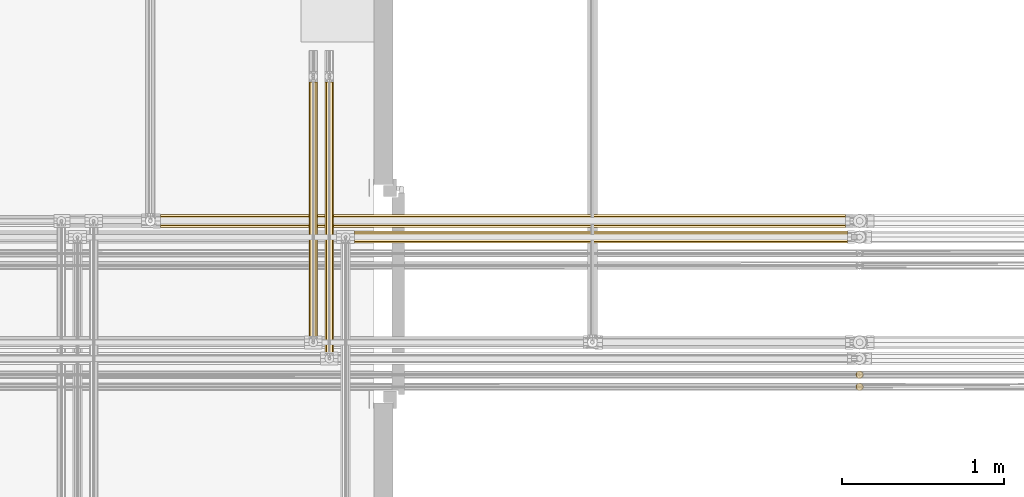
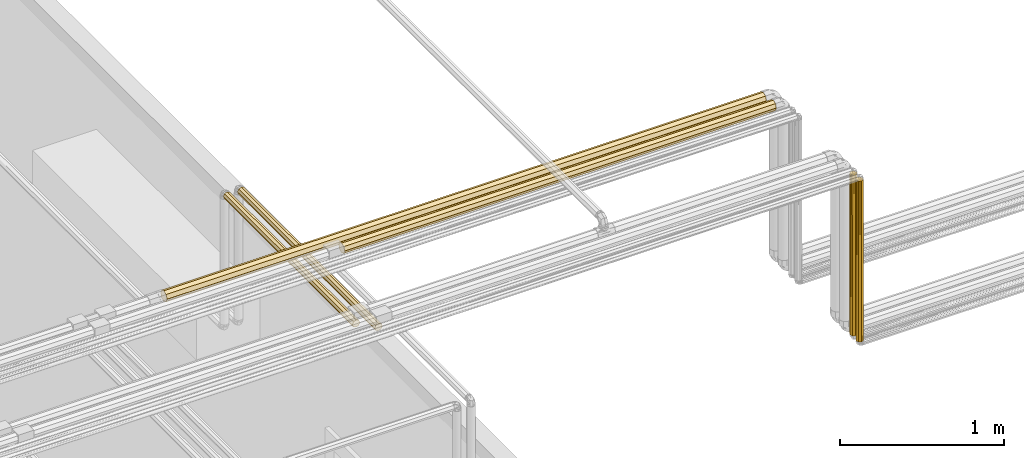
# One storey, part 106 of 652: 6 coverings.
"""IFC2X3 building model written with IfcOpenShell, lengths in millimetres."""

from ifc_helpers import new_model, entity, si_unit, converted_unit, direction, frame, origin, place, context, subcontext, project, spatial, faceted_brep, material, type_object, element, save


model = new_model("IFC2X3")

# Units and contexts
model_context = context("Model", 3, precision=0.01, world=frame((0.0, 0.0, 308426.39999999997)), true_north=direction((6.123233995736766e-17, 1.0)))
plan_context = context("Plan", 3, precision=0.01, world=frame((0.0, 0.0, 308426.39999999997)), true_north=direction((6.123233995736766e-17, 1.0)))
body_context = subcontext(model_context, "Body", "Model", "MODEL_VIEW")
ifc_project = project(units=[si_unit("LENGTHUNIT", "METRE", prefix="MILLI"), si_unit("AREAUNIT", "SQUARE_METRE"), si_unit("VOLUMEUNIT", "CUBIC_METRE"), converted_unit("PLANEANGLEUNIT", "DEGREE", entity("IfcPlaneAngleMeasure", 0.017453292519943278), si_unit("PLANEANGLEUNIT", "RADIAN"), dimensions=[0, 0, 0, 0, 0, 0, 0])], contexts=[model_context, plan_context])

# Site, building, storey
site_placement = place(None, origin())
site = spatial("IfcSite", under=ifc_project, at=site_placement, Name="Default", CompositionType="ELEMENT")
building_placement = place(site_placement, origin())
building = spatial("IfcBuilding", under=site, at=building_placement, CompositionType="ELEMENT")
storey_placement = place(building_placement, frame((0.0, 0.0, 1730.6999999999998)))
storey = spatial("IfcBuildingStorey", under=building, at=storey_placement, Name="EG_Produktion_FFB", CompositionType="ELEMENT", Elevation=1730.6999999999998)

# Coverings
ifc_material = material(Name="Dämmung - Armaflex-Schlauch")
covering_type = type_object("IfcCoveringType", Name="Rohrdämmung außen:Armaflex-Schlauch", PredefinedType="INSULATION")
covering_1_placement = place(storey_placement, frame((66379.93801735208, 41486.94067746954, 3761.942227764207)))
element("IfcCovering", 1, at=covering_1_placement, inside=storey, type_object=covering_type, material=ifc_material, Name="Rohrdämmung außen:Armaflex-Schlauch", ObjectType="Rohrdämmung außen:Armaflex-Schlauch", PredefinedType="INSULATION", context=body_context, shape_type="Brep", body=[
    faceted_brep([(3045.977732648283, 74.52027223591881, 38.057772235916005), (3045.977732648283, 71.89183747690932, 44.40337507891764), (3045.977732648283, 69.18046274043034, 50.949212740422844), (3045.977732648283, 66.51055799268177, 57.3949329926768), (3045.977732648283, 63.8406532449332, 63.84065324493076), (3045.977732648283, 57.394932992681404, 66.51055799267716), (3045.977732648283, 50.94921274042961, 69.18046274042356), (3045.977732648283, 44.50349248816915, 71.85036748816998), (3045.977732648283, 38.057772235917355, 74.52027223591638), (3045.977732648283, 31.712169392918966, 71.8918374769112), (3045.977732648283, 25.166331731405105, 69.18046274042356), (3045.977732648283, 18.72061147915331, 66.51055799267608), (3045.977732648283, 12.274891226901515, 63.84065324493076), (3045.977732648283, 9.604986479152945, 57.3949329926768), (3045.977732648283, 6.935081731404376, 50.949212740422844), (3045.977732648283, 4.265176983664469, 44.50349248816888), (3045.977732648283, 1.5952722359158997, 38.057772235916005), (3045.977732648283, 4.265176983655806, 31.61205198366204), (3045.977732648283, 6.935081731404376, 25.166331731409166), (3045.977732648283, 9.604986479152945, 18.720611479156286), (3045.977732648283, 12.274891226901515, 12.274891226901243), (3045.977732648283, 18.72061147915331, 9.60498647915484), (3045.977732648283, 25.166331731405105, 6.935081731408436), (3045.977732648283, 31.612051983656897, 4.265176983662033), (3045.977732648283, 38.057772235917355, 1.595272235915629), (3045.977732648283, 44.40337507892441, 4.223706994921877), (3045.977732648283, 50.94921274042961, 6.935081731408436), (3045.977732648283, 57.394932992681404, 9.604986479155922), (3045.977732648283, 63.8406532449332, 12.274891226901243), (3045.977732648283, 66.51055799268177, 18.720611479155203), (3045.977732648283, 69.18046274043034, 25.166331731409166), (3045.977732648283, 71.8503674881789, 31.612051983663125), (0.0, 57.394932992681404, 9.604986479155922), (0.0, 50.94921274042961, 6.935081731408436), (0.0, 44.50349248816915, 4.265176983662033), (0.0, 38.057772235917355, 1.595272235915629), (0.0, 31.712169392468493, 4.223706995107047), (0.0, 25.366566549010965, 6.852141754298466), (0.0, 18.82072888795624, 9.563516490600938), (0.0, 12.274891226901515, 12.274891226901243), (0.0, 9.604986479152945, 18.720611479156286), (0.0, 6.935081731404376, 25.166331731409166), (0.0, 4.265176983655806, 31.61205198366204), (0.0, 1.5952722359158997, 38.057772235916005), (0.0, 4.223706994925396, 44.403375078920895), (0.0, 6.85214175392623, 50.748977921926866), (0.0, 9.563516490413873, 57.29481558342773), (0.0, 12.274891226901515, 63.84065324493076), (0.0, 18.72061147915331, 66.51055799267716), (0.0, 25.166331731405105, 69.18046274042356), (0.0, 31.612051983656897, 71.85036748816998), (0.0, 38.057772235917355, 74.52027223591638), (0.0, 44.40337507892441, 71.89183747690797), (0.0, 50.74897792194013, 69.26340271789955), (0.0, 57.294815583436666, 66.55202798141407), (0.0, 63.8406532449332, 63.84065324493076), (0.0, 66.51055799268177, 57.3949329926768), (0.0, 69.18046274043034, 50.949212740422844), (0.0, 71.85036748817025, 44.50349248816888), (0.0, 74.52027223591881, 38.057772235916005), (0.0, 71.89183747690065, 31.712169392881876), (0.0, 69.2634027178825, 25.366566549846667), (0.0, 66.55202798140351, 18.820728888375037), (0.0, 63.8406532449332, 12.274891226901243)], [[[0, 1, 2, 3, 4, 5, 6, 7, 8, 9, 10, 11, 12, 13, 14, 15, 16, 17, 18, 19, 20, 21, 22, 23, 24, 25, 26, 27, 28, 29, 30, 31]], [[32, 33, 34, 35, 36, 37, 38, 39, 40, 41, 42, 43, 44, 45, 46, 47, 48, 49, 50, 51, 52, 53, 54, 55, 56, 57, 58, 59, 60, 61, 62, 63]], [[41, 40, 39, 20, 19, 18, 17, 16, 43, 42]], [[21, 20, 39, 38, 37, 36, 35, 24, 23, 22]], [[25, 24, 35, 34, 33, 32, 63, 28, 27, 26]], [[62, 61, 60, 59, 0, 31, 30, 29, 28, 63]], [[1, 0, 59, 58, 57, 56, 55, 4, 3, 2]], [[54, 53, 52, 51, 8, 7, 6, 5, 4, 55]], [[9, 8, 51, 50, 49, 48, 47, 12, 11, 10]], [[46, 45, 44, 43, 16, 15, 14, 13, 12, 47]]]),
])
covering_2_placement = place(storey_placement, frame((65183.146749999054, 41583.765677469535, 3758.7672277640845)))
element("IfcCovering", 2, at=covering_2_placement, inside=storey, type_object=covering_type, material=ifc_material, Name="Rohrdämmung außen:Armaflex-Schlauch", ObjectType="Rohrdämmung außen:Armaflex-Schlauch", PredefinedType="INSULATION", context=body_context, shape_type="Brep", body=[
    faceted_brep([(4228.735500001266, 80.87027223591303, 41.232772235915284), (4228.735500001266, 78.72440364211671, 46.41335729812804), (4228.735500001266, 75.0654947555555, 55.24674475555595), (4228.735500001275, 72.16310601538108, 62.25373101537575), (4228.735500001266, 69.26071727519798, 69.26071727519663), (4228.735500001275, 62.25373101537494, 72.16310601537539), (4228.735500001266, 55.246744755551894, 75.06549475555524), (4228.735500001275, 48.23975849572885, 77.96788349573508), (4228.735500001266, 41.23277223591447, 80.87027223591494), (4228.735500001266, 36.052187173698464, 78.72440364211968), (4228.735500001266, 27.218799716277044, 75.06549475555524), (4228.735500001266, 20.211813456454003, 72.16310601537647), (4228.735500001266, 13.204827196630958, 69.26071727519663), (4228.735500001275, 10.302438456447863, 62.25373101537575), (4228.735500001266, 7.400049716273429, 55.24674475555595), (4228.735500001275, 4.497660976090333, 48.239758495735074), (4228.735500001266, 1.5952722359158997, 41.232772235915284), (4228.735500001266, 4.497660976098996, 34.22578597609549), (4228.735500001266, 7.400049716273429, 27.21879971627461), (4228.735500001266, 10.302438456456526, 20.211813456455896), (4228.735500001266, 13.204827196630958, 13.204827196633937), (4228.735500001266, 20.211813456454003, 10.302438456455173), (4228.735500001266, 27.218799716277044, 7.4000497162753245), (4228.735500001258, 34.22578597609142, 4.497660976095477), (4228.735500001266, 41.23277223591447, 1.595272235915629), (4228.735500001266, 46.41335729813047, 3.74114082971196), (4228.735500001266, 55.246744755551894, 7.4000497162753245), (4228.735500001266, 62.25373101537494, 10.302438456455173), (4228.735500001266, 69.26071727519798, 13.204827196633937), (4228.735500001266, 72.16310601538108, 20.211813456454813), (4228.735500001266, 75.0654947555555, 27.21879971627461), (4228.735500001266, 77.96788349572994, 34.22578597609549), (0.0, 62.25373101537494, 10.302438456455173), (0.0, 55.246744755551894, 7.4000497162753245), (0.0, 48.23975849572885, 4.497660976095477), (0.0, 41.23277223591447, 1.595272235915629), (0.0, 30.87160211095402, 5.887009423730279), (0.0, 22.03821465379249, 9.545918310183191), (0.0, 13.204827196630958, 13.204827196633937), (0.0, 10.302438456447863, 20.211813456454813), (0.0, 7.400049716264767, 27.21879971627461), (0.0, 4.497660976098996, 34.22578597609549), (0.0, 1.5952722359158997, 41.232772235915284), (0.0, 5.8870094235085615, 51.59394236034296), (0.0, 9.54591831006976, 60.427329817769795), (0.0, 13.204827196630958, 69.26071727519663), (0.0, 20.211813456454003, 72.16310601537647), (0.0, 27.218799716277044, 75.06549475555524), (0.0, 34.22578597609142, 77.96788349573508), (0.0, 41.23277223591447, 80.87027223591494), (0.0, 51.59394236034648, 76.57853504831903), (0.0, 60.4273298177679, 72.91962616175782), (0.0, 69.26071727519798, 69.26071727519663), (0.0, 72.16310601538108, 62.25373101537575), (0.0, 75.0654947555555, 55.24674475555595), (0.0, 77.96788349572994, 48.239758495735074), (0.0, 80.87027223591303, 41.232772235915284), (0.0, 76.57853504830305, 30.87160211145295), (0.0, 72.91962616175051, 22.038214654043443), (0.0, 69.26071727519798, 13.204827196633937)], [[[0, 1, 2, 3, 4, 5, 6, 7, 8, 9, 10, 11, 12, 13, 14, 15, 16, 17, 18, 19, 20, 21, 22, 23, 24, 25, 26, 27, 28, 29, 30, 31]], [[32, 33, 34, 35, 36, 37, 38, 39, 40, 41, 42, 43, 44, 45, 46, 47, 48, 49, 50, 51, 52, 53, 54, 55, 56, 57, 58, 59]], [[40, 39, 38, 20, 19, 18, 17, 16, 42, 41]], [[36, 35, 24, 23, 22, 21, 20, 38, 37]], [[33, 32, 59, 28, 27, 26, 25, 24, 35, 34]], [[28, 59, 58, 57, 56, 0, 31, 30, 29]], [[54, 53, 52, 4, 3, 2, 1, 0, 56, 55]], [[4, 52, 51, 50, 49, 8, 7, 6, 5]], [[47, 46, 45, 12, 11, 10, 9, 8, 49, 48]], [[12, 45, 44, 43, 42, 16, 15, 14, 13]]]),
])
covering_3_placement = place(storey_placement, frame((66196.95799511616, 40806.983749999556, 3671.46722776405)))
element("IfcCovering", 3, at=covering_3_placement, inside=storey, type_object=covering_type, material=ifc_material, Name="Rohrdämmung außen:Armaflex-Schlauch", ObjectType="Rohrdämmung außen:Armaflex-Schlauch", PredefinedType="INSULATION", context=body_context, shape_type="Brep", body=[
    faceted_brep([(9.485083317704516, 0.0, 47.58046115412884), (7.512630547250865, 0.0, 42.818538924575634), (5.540177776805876, 0.0, 38.05661669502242), (3.567725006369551, 0.0, 33.29469446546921), (1.5952722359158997, 0.0, 28.532772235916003), (3.567725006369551, 0.0, 23.770850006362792), (5.540177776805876, 0.0, 19.008927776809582), (7.512630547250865, 0.0, 14.247005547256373), (9.485083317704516, 0.0, 9.485083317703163), (14.247005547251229, 0.0, 7.512630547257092), (19.008927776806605, 0.0, 5.540177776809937), (23.770850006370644, 0.0, 3.567725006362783), (28.532772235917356, 0.0, 1.595272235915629), (32.1916575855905, 0.0, 3.110832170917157), (38.056616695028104, 0.0, 5.540177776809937), (42.818538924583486, 0.0, 7.512630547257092), (47.5804611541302, 0.0, 9.485083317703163), (49.55291392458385, 0.0, 14.247005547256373), (51.525366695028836, 0.0, 19.008927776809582), (53.497819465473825, 0.0, 23.770850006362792), (55.47027223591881, 0.0, 28.532772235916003), (53.95471230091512, 0.0, 32.191657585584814), (51.525366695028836, 0.0, 38.05661669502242), (49.55291392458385, 0.0, 42.818538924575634), (47.5804611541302, 0.0, 47.58046115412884), (42.81853892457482, 0.0, 49.552913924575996), (38.056616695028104, 0.0, 51.525366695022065), (33.29469446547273, 0.0, 53.49781946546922), (28.532772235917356, 0.0, 55.470272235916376), (24.873886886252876, 0.0, 53.95471230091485), (19.008927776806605, 0.0, 51.525366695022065), (14.247005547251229, 0.0, 49.552913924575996), (47.5804611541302, 1677.2086071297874, 9.48508331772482), (42.818538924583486, 1677.2086071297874, 7.512630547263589), (38.056616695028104, 1677.2086071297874, 5.540177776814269), (33.29469446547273, 1677.2086071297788, 3.567725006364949), (28.532772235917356, 1677.2086071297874, 1.5952722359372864), (21.215001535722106, 1677.2086071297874, 4.626392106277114), (15.35004242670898, 1677.2086071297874, 7.055737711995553), (9.485083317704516, 1677.2086071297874, 9.48508331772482), (7.512630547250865, 1677.2086071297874, 14.247005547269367), (5.540177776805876, 1677.2086071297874, 19.008927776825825), (3.567725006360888, 1677.2086071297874, 23.770850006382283), (1.5952722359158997, 1677.2086071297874, 28.53277223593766), (4.626392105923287, 1677.2086071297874, 35.850542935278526), (7.055737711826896, 1677.2086071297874, 41.71550204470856), (9.485083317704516, 1677.2086071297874, 47.5804611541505), (14.247005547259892, 1677.2086071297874, 49.55291392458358), (19.008927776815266, 1677.2086071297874, 51.525366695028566), (23.77085000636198, 1677.2086071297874, 53.49781946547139), (28.532772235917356, 1677.2086071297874, 55.47027223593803), (35.85054293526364, 1677.2086071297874, 52.439152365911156), (41.715502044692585, 1677.2086071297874, 50.00980676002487), (47.5804611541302, 1677.2086071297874, 47.5804611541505), (49.552913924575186, 1677.2086071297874, 42.81853892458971), (51.525366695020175, 1677.2086071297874, 38.05661669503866), (53.497819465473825, 1677.2086071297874, 33.2946944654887), (55.47027223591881, 1677.2086071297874, 28.53277223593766), (52.439152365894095, 1677.2086071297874, 21.21500153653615), (50.00980676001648, 1677.2086071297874, 15.35004242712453)], [[[0, 1, 2, 3, 4, 5, 6, 7, 8, 9, 10, 11, 12, 13, 14, 15, 16, 17, 18, 19, 20, 21, 22, 23, 24, 25, 26, 27, 28, 29, 30, 31]], [[32, 33, 34, 35, 36, 37, 38, 39, 40, 41, 42, 43, 44, 45, 46, 47, 48, 49, 50, 51, 52, 53, 54, 55, 56, 57, 58, 59]], [[41, 40, 39, 8, 7, 6, 5, 4, 43, 42]], [[37, 36, 12, 11, 10, 9, 8, 39, 38]], [[34, 33, 32, 16, 15, 14, 13, 12, 36, 35]], [[16, 32, 59, 58, 57, 20, 19, 18, 17]], [[55, 54, 53, 24, 23, 22, 21, 20, 57, 56]], [[24, 53, 52, 51, 50, 28, 27, 26, 25]], [[48, 47, 46, 0, 31, 30, 29, 28, 50, 49]], [[0, 46, 45, 44, 43, 4, 3, 2, 1]]]),
])
covering_4_placement = place(storey_placement, frame((66096.95799511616, 40906.98374999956, 3671.467227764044)))
element("IfcCovering", 4, at=covering_4_placement, inside=storey, type_object=covering_type, material=ifc_material, Name="Rohrdämmung außen:Armaflex-Schlauch", ObjectType="Rohrdämmung außen:Armaflex-Schlauch", PredefinedType="INSULATION", context=body_context, shape_type="Brep", body=[
    faceted_brep([(9.485083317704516, 0.0, 47.58046115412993), (7.512630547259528, 0.0, 42.818538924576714), (5.54017777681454, 0.0, 38.05661669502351), (3.567725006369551, 0.0, 33.29469446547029), (1.5952722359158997, 0.0, 28.532772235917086), (3.567725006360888, 0.0, 23.770850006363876), (5.54017777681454, 0.0, 19.008927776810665), (7.512630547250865, 0.0, 14.247005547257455), (9.485083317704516, 0.0, 9.485083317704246), (14.247005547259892, 0.0, 7.512630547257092), (19.008927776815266, 0.0, 5.540177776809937), (23.770850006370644, 0.0, 3.567725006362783), (28.532772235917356, 0.0, 1.595272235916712), (32.42364245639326, 0.0, 3.2069234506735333), (38.05661669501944, 0.0, 5.540177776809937), (42.81853892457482, 0.0, 7.512630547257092), (47.5804611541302, 0.0, 9.485083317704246), (49.552913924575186, 0.0, 14.247005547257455), (51.525366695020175, 0.0, 19.008927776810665), (53.49781946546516, 0.0, 23.770850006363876), (55.47027223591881, 0.0, 28.532772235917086), (53.858621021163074, 0.0, 32.42364245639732), (51.525366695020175, 0.0, 38.05661669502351), (49.552913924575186, 0.0, 42.818538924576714), (47.5804611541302, 0.0, 47.58046115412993), (42.81853892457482, 0.0, 49.552913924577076), (38.05661669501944, 0.0, 51.52536669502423), (33.29469446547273, 0.0, 53.49781946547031), (28.532772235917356, 0.0, 55.470272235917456), (24.641902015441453, 0.0, 53.85862102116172), (19.008927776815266, 0.0, 51.52536669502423), (14.247005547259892, 0.0, 49.552913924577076), (47.5804611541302, 1577.2086071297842, 9.485083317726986), (42.81853892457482, 1577.2086071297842, 7.512630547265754), (38.056616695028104, 1577.2086071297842, 5.540177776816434), (33.29469446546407, 1577.2086071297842, 3.567725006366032), (28.532772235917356, 1577.2086071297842, 1.5952722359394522), (20.751031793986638, 1577.2086071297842, 4.818574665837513), (15.118057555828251, 1577.2086071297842, 7.151828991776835), (9.485083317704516, 1577.2086071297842, 9.485083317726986), (7.512630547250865, 1577.2086071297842, 14.247005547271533), (5.540177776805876, 1577.2086071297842, 19.008927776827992), (3.567725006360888, 1577.2086071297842, 23.77085000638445), (1.5952722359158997, 1577.2086071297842, 28.532772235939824), (4.81857466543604, 1577.2086071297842, 36.31451267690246), (7.151828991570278, 1577.2086071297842, 41.94748691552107), (9.485083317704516, 1577.2086071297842, 47.580461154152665), (14.247005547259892, 1577.2086071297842, 49.55291392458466), (19.008927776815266, 1577.2086071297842, 51.525366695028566), (23.77085000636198, 1577.2086071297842, 53.497819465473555), (28.532772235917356, 1577.2086071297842, 55.4702722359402), (36.314512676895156, 1577.2086071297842, 52.246969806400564), (41.94748691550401, 1577.2086071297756, 49.91371548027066), (47.5804611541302, 1577.2086071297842, 47.580461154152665), (49.552913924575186, 1577.2086071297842, 42.81853892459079), (51.525366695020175, 1577.2086071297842, 38.05661669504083), (53.49781946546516, 1577.2086071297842, 33.29469446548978), (55.47027223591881, 1577.2086071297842, 28.532772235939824), (52.246969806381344, 1577.2086071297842, 20.751031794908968), (49.913715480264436, 1577.2086071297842, 15.118057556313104)], [[[0, 1, 2, 3, 4, 5, 6, 7, 8, 9, 10, 11, 12, 13, 14, 15, 16, 17, 18, 19, 20, 21, 22, 23, 24, 25, 26, 27, 28, 29, 30, 31]], [[32, 33, 34, 35, 36, 37, 38, 39, 40, 41, 42, 43, 44, 45, 46, 47, 48, 49, 50, 51, 52, 53, 54, 55, 56, 57, 58, 59]], [[41, 40, 39, 8, 7, 6, 5, 4, 43, 42]], [[37, 36, 12, 11, 10, 9, 8, 39, 38]], [[34, 33, 32, 16, 15, 14, 13, 12, 36, 35]], [[16, 32, 59, 58, 57, 20, 19, 18, 17]], [[55, 54, 53, 24, 23, 22, 21, 20, 57, 56]], [[24, 53, 52, 51, 50, 28, 27, 26, 25]], [[48, 47, 46, 0, 31, 30, 29, 28, 50, 49]], [[0, 46, 45, 44, 43, 4, 3, 2, 1]]]),
])
covering_5_placement = place(storey_placement, frame((69474.64222776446, 40649.64222776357, 2581.3079024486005)))
element("IfcCovering", 5, at=covering_5_placement, inside=storey, type_object=covering_type, material=ifc_material, Name="Rohrdämmung außen:Armaflex-Schlauch", ObjectType="Rohrdämmung außen:Armaflex-Schlauch", PredefinedType="INSULATION", context=body_context, shape_type="Brep", body=[
    faceted_brep([(1.5952722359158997, 25.35777223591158, 1.5952722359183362), (3.335241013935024, 29.558428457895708, 1.5952722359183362), (5.075209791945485, 33.759084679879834, 1.5952722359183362), (6.815178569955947, 37.95974090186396, 1.5952722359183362), (8.55514734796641, 42.160397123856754, 1.5952722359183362), (12.755803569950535, 43.90036590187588, 1.5952722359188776), (16.956459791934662, 45.64033467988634, 1.5952722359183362), (21.117772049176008, 47.36400665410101, 1.5952722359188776), (25.35777223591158, 49.12027223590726, 1.5952722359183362), (30.292313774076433, 48.047093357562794, 1.5952722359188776), (35.22685531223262, 46.97391447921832, 1.5952722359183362), (39.267438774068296, 43.951164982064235, 1.5952722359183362), (43.30802223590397, 40.92841548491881, 1.5952722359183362), (43.30802223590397, 9.78712898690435, 1.5952722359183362), (39.26743877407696, 6.764379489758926, 1.595272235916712), (35.22685531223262, 3.7416299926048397, 1.5952722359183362), (30.292313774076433, 2.6684511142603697, 1.5952722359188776), (25.35777223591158, 1.5952722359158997, 1.5952722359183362), (21.15711601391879, 3.3352410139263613, 1.5952722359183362), (16.956459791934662, 5.075209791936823, 1.5952722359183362), (12.755803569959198, 6.815178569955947, 1.5952722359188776), (8.55514734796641, 8.55514734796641, 1.5952722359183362), (6.815178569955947, 12.755803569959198, 1.5952722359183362), (5.075209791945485, 16.956459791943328, 1.5952722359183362), (3.335241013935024, 21.157116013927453, 1.5952722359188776), (7.407522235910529, 40.928415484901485, 1200.74184755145), (7.407522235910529, 9.787128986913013, 1200.74184755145), (11.448105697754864, 6.764379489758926, 1200.7418475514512), (15.488689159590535, 3.7416299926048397, 1200.74184755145), (20.42323069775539, 2.6684511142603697, 1200.74184755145), (25.35777223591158, 1.5952722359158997, 1200.74184755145), (29.59777242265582, 3.3515378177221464, 1200.74184755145), (33.759084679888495, 5.075209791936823, 1200.74184755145), (37.95974090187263, 6.815178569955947, 1200.74184755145), (42.160397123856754, 8.55514734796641, 1200.74184755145), (43.90036590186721, 12.755803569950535, 1200.74184755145), (45.640334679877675, 16.956459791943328, 1200.74184755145), (47.38030345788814, 21.157116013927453, 1200.74184755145), (49.12027223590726, 25.35777223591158, 1200.74184755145), (47.3803034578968, 29.558428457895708, 1200.74184755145), (45.640334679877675, 33.759084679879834, 1200.74184755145), (43.90036590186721, 37.95974090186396, 1200.74184755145), (42.160397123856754, 42.160397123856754, 1200.74184755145), (37.95974090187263, 43.90036590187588, 1200.74184755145), (33.759084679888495, 45.64033467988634, 1200.74184755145), (29.558428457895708, 47.3803034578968, 1200.74184755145), (25.35777223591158, 49.12027223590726, 1200.74184755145), (20.42323069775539, 48.047093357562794, 1200.74184755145), (15.488689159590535, 46.97391447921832, 1200.74184755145), (11.448105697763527, 43.95116498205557, 1200.7418475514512), (3.095705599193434, 17.04773040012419, 1196.430030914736), (5.251613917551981, 13.417429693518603, 1198.5859392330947), (2.345488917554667, 21.202751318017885, 1195.6798142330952), (1.5952722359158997, 25.35777223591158, 1194.9295975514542), (2.345488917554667, 29.51279315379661, 1195.679814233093), (3.095705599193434, 33.66781407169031, 1196.4300309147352), (5.251613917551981, 37.2981147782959, 1198.5859392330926), (48.37005555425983, 29.512793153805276, 6.657305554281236), (45.46393055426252, 37.29811477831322, 3.751180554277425), (47.61983887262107, 33.66781407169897, 5.907088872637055), (49.12027223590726, 25.35777223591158, 7.407522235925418), (48.37005555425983, 21.202751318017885, 6.657305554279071), (47.61983887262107, 17.04773040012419, 5.907088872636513), (45.46393055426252, 13.41742969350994, 3.7511805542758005)], [[[0, 1, 2, 3, 4, 5, 6, 7, 8, 9, 10, 11, 12, 13, 14, 15, 16, 17, 18, 19, 20, 21, 22, 23, 24]], [[25, 26, 27, 28, 29, 30, 31, 32, 33, 34, 35, 36, 37, 38, 39, 40, 41, 42, 43, 44, 45, 46, 47, 48, 49]], [[30, 18, 17]], [[23, 50, 24]], [[18, 30, 29]], [[29, 19, 18]], [[26, 21, 27]], [[22, 26, 51]], [[51, 50, 23]], [[52, 53, 0]], [[28, 27, 20]], [[27, 21, 20]], [[28, 20, 19]], [[24, 50, 52]], [[21, 26, 22]], [[29, 28, 19]], [[51, 23, 22]], [[52, 0, 24]], [[53, 54, 0]], [[47, 46, 7]], [[1, 54, 55]], [[48, 5, 49]], [[56, 2, 55]], [[4, 25, 49]], [[48, 47, 6]], [[6, 47, 7]], [[0, 54, 1]], [[49, 5, 4]], [[46, 8, 7]], [[48, 6, 5]], [[2, 56, 3]], [[25, 3, 56]], [[1, 55, 2]], [[3, 25, 4]], [[11, 43, 42]], [[46, 45, 8]], [[44, 10, 9]], [[44, 43, 10]], [[38, 57, 39]], [[12, 41, 58]], [[59, 40, 39]], [[9, 45, 44]], [[40, 59, 58]], [[10, 43, 11]], [[57, 59, 39]], [[8, 45, 9]], [[42, 12, 11]], [[60, 57, 38]], [[41, 12, 42]], [[41, 40, 58]], [[38, 61, 60]], [[16, 32, 31]], [[61, 38, 37]], [[62, 36, 63]], [[14, 34, 33]], [[34, 14, 13]], [[32, 16, 15]], [[13, 35, 34]], [[36, 62, 37]], [[31, 17, 16]], [[13, 63, 35]], [[33, 15, 14]], [[33, 32, 15]], [[37, 62, 61]], [[31, 30, 17]], [[63, 36, 35]], [[12, 58, 59, 57, 60, 61, 62, 63, 13]], [[52, 50, 51, 26, 25, 56, 55, 54, 53]]]),
])
covering_6_placement = place(storey_placement, frame((69474.64222776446, 40574.64222776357, 2581.3079024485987)))
element("IfcCovering", 6, at=covering_6_placement, inside=storey, type_object=covering_type, material=ifc_material, Name="Rohrdämmung außen:Armaflex-Schlauch", ObjectType="Rohrdämmung außen:Armaflex-Schlauch", PredefinedType="INSULATION", context=body_context, shape_type="Brep", body=[
    faceted_brep([(1.5952722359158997, 25.35777223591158, 1.595272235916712), (3.335241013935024, 29.558428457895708, 1.595272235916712), (5.075209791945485, 33.759084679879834, 1.595272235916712), (6.815178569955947, 37.95974090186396, 1.595272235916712), (8.55514734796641, 42.160397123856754, 1.595272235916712), (12.755803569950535, 43.90036590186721, 1.595272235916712), (16.956459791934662, 45.64033467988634, 1.595272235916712), (21.11777204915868, 47.36400665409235, 1.595272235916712), (25.35777223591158, 49.12027223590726, 1.595272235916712), (30.292313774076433, 48.047093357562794, 1.595272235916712), (35.22685531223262, 46.97391447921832, 1.595272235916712), (39.267438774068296, 43.951164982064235, 1.595272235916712), (43.30802223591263, 40.92841548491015, 1.595272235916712), (43.30802223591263, 9.787128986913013, 1.595272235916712), (39.26743877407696, 6.764379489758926, 1.595272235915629), (35.22685531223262, 3.7416299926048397, 1.595272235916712), (30.292313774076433, 2.6684511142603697, 1.595272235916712), (25.35777223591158, 1.5952722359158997, 1.595272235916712), (21.15711601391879, 3.3352410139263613, 1.595272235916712), (16.956459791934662, 5.075209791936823, 1.595272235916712), (12.755803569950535, 6.815178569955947, 1.5952722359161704), (8.55514734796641, 8.55514734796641, 1.595272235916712), (6.815178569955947, 12.755803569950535, 1.595272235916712), (5.075209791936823, 16.956459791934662, 1.595272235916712), (3.3352410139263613, 21.157116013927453, 1.5952722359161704), (7.407522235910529, 40.928415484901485, 1200.741847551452), (7.407522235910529, 9.787128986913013, 1200.741847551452), (11.448105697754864, 6.764379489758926, 1200.7418475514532), (15.488689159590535, 3.7416299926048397, 1200.741847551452), (20.42323069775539, 2.6684511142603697, 1200.741847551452), (25.35777223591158, 1.5952722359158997, 1200.741847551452), (29.597772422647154, 3.3515378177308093, 1200.741847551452), (33.759084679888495, 5.075209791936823, 1200.741847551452), (37.95974090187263, 6.815178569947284, 1200.741847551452), (42.160397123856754, 8.55514734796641, 1200.741847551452), (43.90036590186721, 12.755803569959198, 1200.741847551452), (45.640334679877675, 16.956459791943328, 1200.741847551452), (47.38030345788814, 21.157116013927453, 1200.741847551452), (49.12027223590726, 25.35777223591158, 1200.741847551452), (47.38030345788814, 29.558428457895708, 1200.741847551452), (45.640334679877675, 33.759084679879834, 1200.741847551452), (43.90036590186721, 37.95974090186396, 1200.741847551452), (42.160397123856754, 42.160397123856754, 1200.741847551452), (37.95974090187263, 43.90036590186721, 1200.741847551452), (33.759084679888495, 45.64033467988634, 1200.741847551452), (29.558428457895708, 47.3803034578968, 1200.741847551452), (25.35777223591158, 49.12027223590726, 1200.741847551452), (20.42323069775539, 48.047093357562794, 1200.741847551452), (15.488689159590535, 46.97391447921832, 1200.741847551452), (11.448105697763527, 43.95116498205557, 1200.7418475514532), (3.095705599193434, 17.04773040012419, 1196.4300309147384), (5.251613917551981, 13.417429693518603, 1198.585939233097), (2.345488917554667, 21.202751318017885, 1195.6798142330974), (1.5952722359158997, 25.35777223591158, 1194.9295975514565), (2.345488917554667, 29.51279315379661, 1195.6798142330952), (3.095705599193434, 33.66781407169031, 1196.4300309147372), (5.251613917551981, 37.2981147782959, 1198.5859392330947), (48.3700555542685, 29.512793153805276, 6.657305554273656), (45.46393055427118, 37.29811477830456, 3.7511805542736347), (47.61983887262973, 33.66781407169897, 5.907088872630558), (49.12027223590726, 25.35777223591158, 7.407522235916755), (48.3700555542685, 21.202751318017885, 6.657305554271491), (47.61983887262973, 17.04773040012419, 5.907088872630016), (45.46393055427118, 13.417429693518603, 3.7511805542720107)], [[[0, 1, 2, 3, 4, 5, 6, 7, 8, 9, 10, 11, 12, 13, 14, 15, 16, 17, 18, 19, 20, 21, 22, 23, 24]], [[25, 26, 27, 28, 29, 30, 31, 32, 33, 34, 35, 36, 37, 38, 39, 40, 41, 42, 43, 44, 45, 46, 47, 48, 49]], [[30, 18, 17]], [[23, 50, 24]], [[18, 30, 29]], [[29, 19, 18]], [[26, 21, 27]], [[22, 26, 51]], [[51, 50, 23]], [[52, 53, 0]], [[28, 27, 20]], [[27, 21, 20]], [[28, 20, 19]], [[24, 50, 52]], [[21, 26, 22]], [[29, 28, 19]], [[51, 23, 22]], [[52, 0, 24]], [[53, 54, 0]], [[47, 46, 7]], [[1, 54, 55]], [[48, 5, 49]], [[56, 2, 55]], [[4, 25, 49]], [[48, 47, 6]], [[6, 47, 7]], [[0, 54, 1]], [[49, 5, 4]], [[46, 8, 7]], [[48, 6, 5]], [[2, 56, 3]], [[25, 3, 56]], [[1, 55, 2]], [[3, 25, 4]], [[11, 43, 42]], [[46, 45, 8]], [[44, 10, 9]], [[44, 43, 10]], [[38, 57, 39]], [[12, 41, 58]], [[59, 40, 39]], [[9, 45, 44]], [[40, 59, 58]], [[10, 43, 11]], [[57, 59, 39]], [[8, 45, 9]], [[42, 12, 11]], [[60, 57, 38]], [[41, 12, 42]], [[41, 40, 58]], [[38, 61, 60]], [[16, 32, 31]], [[61, 38, 37]], [[62, 36, 63]], [[14, 34, 33]], [[34, 14, 13]], [[32, 16, 15]], [[13, 35, 34]], [[36, 62, 37]], [[31, 17, 16]], [[13, 63, 35]], [[33, 15, 14]], [[33, 32, 15]], [[37, 62, 61]], [[31, 30, 17]], [[63, 36, 35]], [[12, 58, 59, 57, 60, 61, 62, 63, 13]], [[52, 50, 51, 26, 25, 56, 55, 54, 53]]]),
])

save(model, "model.ifc")
